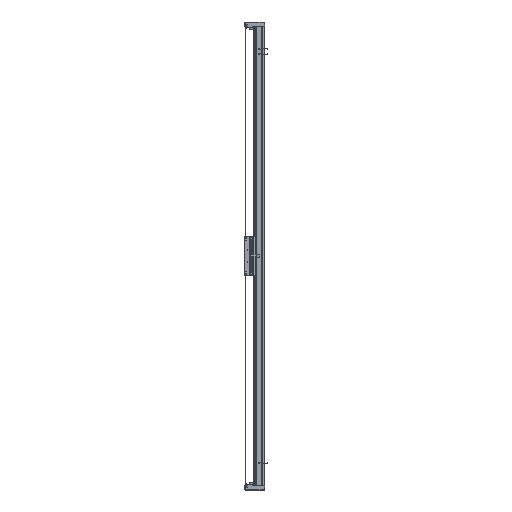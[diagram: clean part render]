
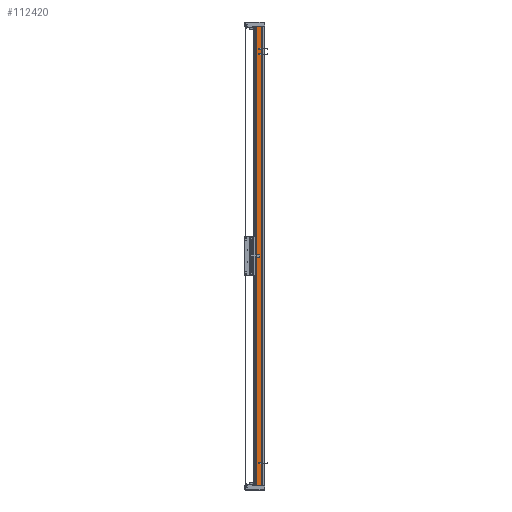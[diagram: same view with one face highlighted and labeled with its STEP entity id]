
A CAD part, left-side view. The second image highlights one B-rep face of the part: STEP entity #112420.
In plain terms, the highlighted planar face has unit normal (-1, 0, 0).
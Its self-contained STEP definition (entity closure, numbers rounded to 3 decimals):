
#1293 = EDGE_CURVE ( 'NONE', #111848, #7980, #36254, .T. ) ;
#7980 = VERTEX_POINT ( 'NONE', #24545 ) ;
#24545 = CARTESIAN_POINT ( 'NONE',  ( -82.5, 14.45, -1110. ) ) ;
#25777 = VERTEX_POINT ( 'NONE', #61474 ) ;
#27642 = ORIENTED_EDGE ( 'NONE', *, *, #118784, .F. ) ;
#31675 = CARTESIAN_POINT ( 'NONE',  ( -82.5, 36.95, 1110. ) ) ;
#31985 = AXIS2_PLACEMENT_3D ( 'NONE', #31675, #69536, #107444 ) ;
#35570 = EDGE_CURVE ( 'NONE', #25777, #111848, #84703, .T. ) ;
#36254 = LINE ( 'NONE', #84055, #65327 ) ;
#36862 = DIRECTION ( 'NONE',  ( 0., -1., 0. ) ) ;
#39150 = VERTEX_POINT ( 'NONE', #49480 ) ;
#41783 = CARTESIAN_POINT ( 'NONE',  ( -82.5, 36.95, 1110. ) ) ;
#42926 = CARTESIAN_POINT ( 'NONE',  ( -82.5, 36.95, -1110. ) ) ;
#49480 = CARTESIAN_POINT ( 'NONE',  ( -82.5, 14.45, 1110. ) ) ;
#51103 = DIRECTION ( 'NONE',  ( 0., -1., 0. ) ) ;
#51508 = EDGE_LOOP ( 'NONE', ( #80646, #27642, #113425, #67058 ) ) ;
#60246 = EDGE_CURVE ( 'NONE', #25777, #39150, #116993, .T. ) ;
#61138 = LINE ( 'NONE', #117734, #112285 ) ;
#61474 = CARTESIAN_POINT ( 'NONE',  ( -82.5, 36.95, 1110. ) ) ;
#65327 = VECTOR ( 'NONE', #36862, 1000. ) ;
#67058 = ORIENTED_EDGE ( 'NONE', *, *, #35570, .T. ) ;
#69536 = DIRECTION ( 'NONE',  ( 1., 0., 0. ) ) ;
#78843 = FACE_OUTER_BOUND ( 'NONE', #51508, .T. ) ;
#80646 = ORIENTED_EDGE ( 'NONE', *, *, #1293, .T. ) ;
#81606 = DIRECTION ( 'NONE',  ( 0., 0., -1. ) ) ;
#84055 = CARTESIAN_POINT ( 'NONE',  ( -82.5, 36.95, -1110. ) ) ;
#84703 = LINE ( 'NONE', #111473, #116318 ) ;
#102734 = DIRECTION ( 'NONE',  ( 0., 0., -1. ) ) ;
#107444 = DIRECTION ( 'NONE',  ( 0., 1., 0. ) ) ;
#111473 = CARTESIAN_POINT ( 'NONE',  ( -82.5, 36.95, 1110. ) ) ;
#111848 = VERTEX_POINT ( 'NONE', #42926 ) ;
#112285 = VECTOR ( 'NONE', #81606, 1000. ) ;
#112420 = ADVANCED_FACE ( 'NONE', ( #78843 ), #116791, .F. ) ;
#113425 = ORIENTED_EDGE ( 'NONE', *, *, #60246, .F. ) ;
#114022 = VECTOR ( 'NONE', #51103, 1000. ) ;
#116318 = VECTOR ( 'NONE', #102734, 1000. ) ;
#116791 = PLANE ( 'NONE',  #31985 ) ;
#116993 = LINE ( 'NONE', #41783, #114022 ) ;
#117734 = CARTESIAN_POINT ( 'NONE',  ( -82.5, 14.45, 1110. ) ) ;
#118784 = EDGE_CURVE ( 'NONE', #39150, #7980, #61138, .T. ) ;
